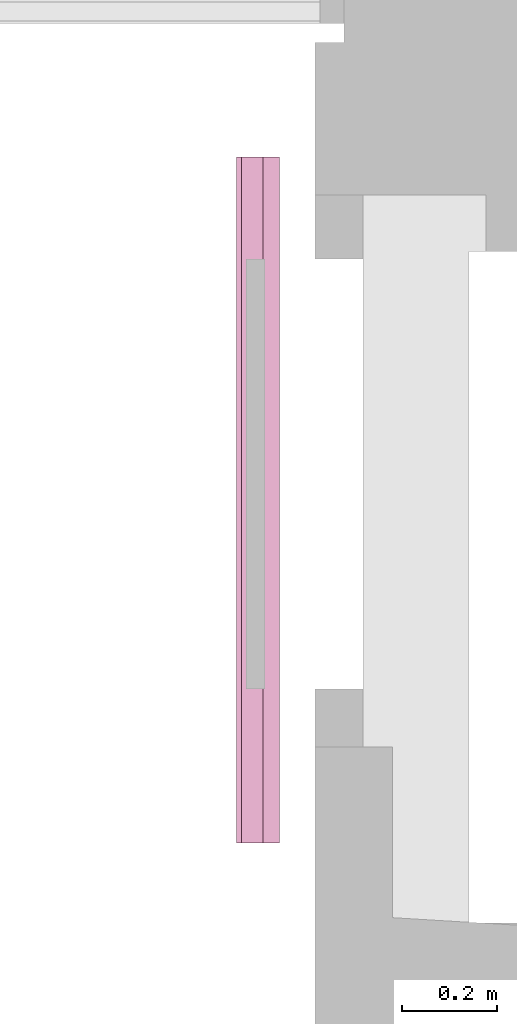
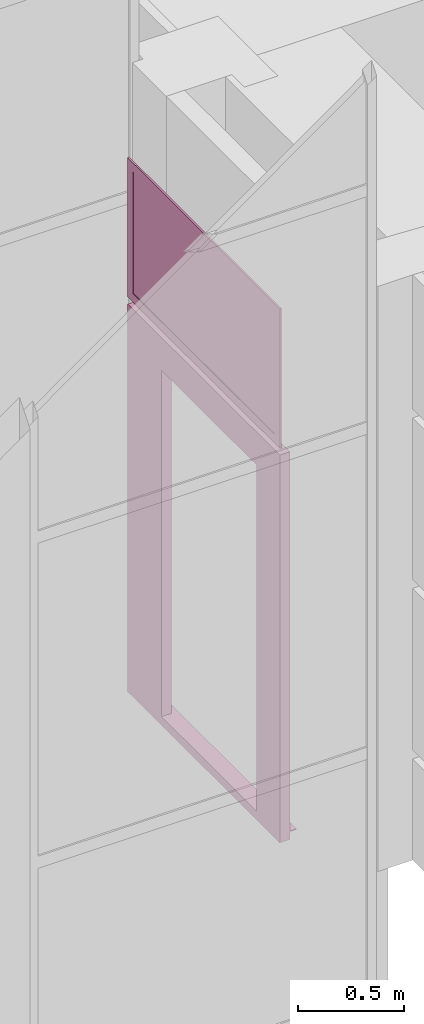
# One storey, part 66 of 66: 2 transport elements.
"""IFC2X3 building model written with IfcOpenShell, lengths in millimetres."""

from ifc_helpers import new_model, entity, si_unit, converted_unit, derived_unit, direction, frame, frame_2d, origin, origin_2d_with_axis, place, context, subcontext, project, spatial, polyline, rectangle, outline, extrude, source, transform, mapped, material, material_list, type_object, type_shapes, element, save


model = new_model("IFC2X3")

# Units and contexts
model_context = context("Model", 3, precision=0.01, world=origin(), true_north=direction((6.12303176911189e-17, 1.0)))
body_context = subcontext(model_context, "Body", "Model", "MODEL_VIEW")
ifc_project = project(units=[si_unit("LENGTHUNIT", "METRE", prefix="MILLI"), si_unit("AREAUNIT", "SQUARE_METRE"), si_unit("VOLUMEUNIT", "CUBIC_METRE"), converted_unit("PLANEANGLEUNIT", "DEGREE", entity("IfcRatioMeasure", 0.0174532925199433), si_unit("PLANEANGLEUNIT", "RADIAN"), dimensions=[0, 0, 0, 0, 0, 0, 0]), si_unit("MASSUNIT", "GRAM", prefix="KILO"), derived_unit("MASSDENSITYUNIT", [(si_unit("MASSUNIT", "GRAM", prefix="KILO"), 1), (si_unit("LENGTHUNIT", "METRE"), -3)]), si_unit("TIMEUNIT", "SECOND"), si_unit("FREQUENCYUNIT", "HERTZ"), si_unit("THERMODYNAMICTEMPERATUREUNIT", "DEGREE_CELSIUS"), derived_unit("THERMALTRANSMITTANCEUNIT", [(si_unit("MASSUNIT", "GRAM", prefix="KILO"), 1), (si_unit("THERMODYNAMICTEMPERATUREUNIT", "KELVIN"), -1), (si_unit("TIMEUNIT", "SECOND"), -3)]), derived_unit("VOLUMETRICFLOWRATEUNIT", [(si_unit("LENGTHUNIT", "METRE"), 3), (si_unit("TIMEUNIT", "SECOND"), -1)]), si_unit("ELECTRICCURRENTUNIT", "AMPERE"), si_unit("ELECTRICVOLTAGEUNIT", "VOLT"), si_unit("POWERUNIT", "WATT"), si_unit("FORCEUNIT", "NEWTON", prefix="KILO"), si_unit("ILLUMINANCEUNIT", "LUX"), si_unit("LUMINOUSFLUXUNIT", "LUMEN"), si_unit("LUMINOUSINTENSITYUNIT", "CANDELA"), derived_unit("USERDEFINED", [(si_unit("MASSUNIT", "GRAM", prefix="KILO"), -1), (si_unit("LENGTHUNIT", "METRE"), -2), (si_unit("TIMEUNIT", "SECOND"), 3), (si_unit("LUMINOUSFLUXUNIT", "LUMEN"), 1)]), derived_unit("LINEARVELOCITYUNIT", [(si_unit("LENGTHUNIT", "METRE"), 1), (si_unit("TIMEUNIT", "SECOND"), -1)]), si_unit("PRESSUREUNIT", "PASCAL"), derived_unit("USERDEFINED", [(si_unit("LENGTHUNIT", "METRE"), -2), (si_unit("MASSUNIT", "GRAM", prefix="KILO"), 1), (si_unit("TIMEUNIT", "SECOND"), -2)])], contexts=[model_context])

# Site, building, storey
site_placement = place(None, frame((-151.875543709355, 2715.0, 0.0)))
site = spatial("IfcSite", under=ifc_project, at=site_placement, Name="Surface", CompositionType="ELEMENT")
building_placement = place(site_placement, origin())
building = spatial("IfcBuilding", under=site, at=building_placement, CompositionType="ELEMENT")
storey_placement = place(building_placement, frame((0.0, 0.0, 3350.0)))
storey = spatial("IfcBuildingStorey", under=building, at=storey_placement, Name="2 korrus", CompositionType="ELEMENT", Elevation=3350.00000000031)

# Transport element
ifc_material_1 = material(Name="Kalea_RAL_9016")
transport_element_type_1 = type_object("IfcTransportElementType", Name="1100 x 1467 - Left hinged", PredefinedType="NOTDEFINED", material=ifc_material_1)
shared_shape_1 = source(origin(), body_context, "Body", "SweptSolid", [
    extrude(outline(polyline([(-31.6666666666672, -31.6666666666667), (18.3333333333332, -31.6666666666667), (18.3333333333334, 58.3333333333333), (13.3333333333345, 58.3333333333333), (13.3333333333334, -26.6666666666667), (-31.6666666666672, -26.6666666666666), (-31.6666666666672, -31.6666666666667)])), frame((0.0, -31.6666666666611, 31.6666666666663), z_axis=(1.0, 0.0, 0.0), x_axis=(0.0, 0.0, 1.0)), (0.0, 0.0, 1.0), 1440.0),
    extrude(outline(polyline([(-720.0, -1120.0), (720.0, -1120.0), (720.0, 1120.0), (-720.0, 1120.0), (-720.0, -1120.0)]), holes=[polyline([(-500.0, -930.0), (-500.0, 1070.0), (400.0, 1070.0), (400.0, -930.0), (-500.0, -930.0)])]), frame((720.0, -55.0, 1120.0), z_axis=(0.0, 1.0, 0.0), x_axis=(1.0, 0.0, 0.0)), (0.0, 0.0, 1.0), 55.0),
])
type_shapes(transport_element_type_1, [shared_shape_1])
transport_element_1_placement = place(storey_placement, frame((-706.883383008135, 4570.0, -50.0), z_axis=(0.0, 0.0, 1.0), x_axis=(0.0, 1.0, 0.0)))
element("IfcTransportElement", 1, at=transport_element_1_placement, inside=storey, type_object=transport_element_type_1, material=ifc_material_1, Name="A-side_Door_EI60G:1100 x 1467 - Left hinged", ObjectType="1100 x 1467 - Left hinged", CapacityByNumber=0.0, CapacityByWeight=0.0, OperationType="NOTDEFINED", context=body_context, shape_type="MappedRepresentation", body=[
    mapped(shared_shape_1, transform((0.0, 0.0, 0.0), scale=1.0)),
])

# Space
space_placement = place(storey_placement, origin())
space = spatial("IfcSpace", under=storey, at=space_placement, Name="203", CompositionType="ELEMENT", InteriorOrExteriorSpace="INTERNAL")

# Transport element
ifc_material_2 = material(Name="Kalea_glass")
ifc_material_3 = material(Name="Kalea_glass_black")
ifc_material_list_1 = material_list([ifc_material_2, ifc_material_3, ifc_material_1])
ifc_material_list_2 = material_list([ifc_material_2, ifc_material_3, ifc_material_1])
transport_element_type_2 = type_object("IfcTransportElementType", Name="1100 x 1467 - 805", PredefinedType="NOTDEFINED", material=ifc_material_list_2)
shared_shape_2 = source(origin(), body_context, "Body", "SweptSolid", [
    extrude(rectangle(XDim=4.0, YDim=1020.0, at=origin_2d_with_axis()), frame((880.0, 15.0, 50.0), z_axis=(0.0, 0.0, 1.0), x_axis=(0.0, 1.0, 0.0)), (0.0, 0.0, 1.0), 705.0),
    extrude(rectangle(XDim=4.0, YDim=320.0, at=frame_2d((-2.1094237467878e-15, -1.4210854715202e-14), x_axis=(1.0, 0.0))), frame((210.0, 15.0, 50.0), z_axis=(0.0, 0.0, 1.0), x_axis=(0.0, 1.0, 0.0)), (0.0, 0.0, 1.0), 705.0),
    extrude(outline(polyline([(-720.0, -402.500000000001), (720.0, -402.500000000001), (720.0, 402.500000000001), (-720.0, 402.500000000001), (-720.0, -402.500000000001)]), holes=[polyline([(-670.0, -352.499999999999), (-670.0, 352.500000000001), (670.0, 352.500000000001), (670.0, -352.499999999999), (-670.0, -352.499999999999)])]), frame((720.0, 10.0, 402.500000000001), z_axis=(0.0, 1.0, 0.0), x_axis=(1.0, 0.0, 0.0)), (0.0, 0.0, 1.0), 9.99999999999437),
])
type_shapes(transport_element_type_2, [shared_shape_2])
transport_element_2_placement = place(space_placement, frame((-716.883383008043, 6010.0, 2230.0), z_axis=(0.0, 0.0, 1.0), x_axis=(0.0, -1.0, 0.0)))
element("IfcTransportElement", 2, at=transport_element_2_placement, inside=space, type_object=transport_element_type_2, material=ifc_material_list_1, Name="A-side_Glass Panel:1100 x 1467 - 805", ObjectType="1100 x 1467 - 805", CapacityByNumber=0.0, CapacityByWeight=0.0, OperationType="NOTDEFINED", context=body_context, shape_type="MappedRepresentation", body=[
    mapped(shared_shape_2, transform((0.0, 0.0, 0.0), scale=1.0)),
])

save(model, "model.ifc")
